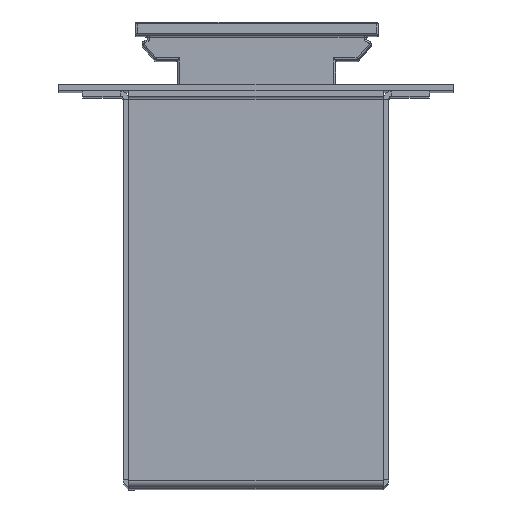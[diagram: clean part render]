
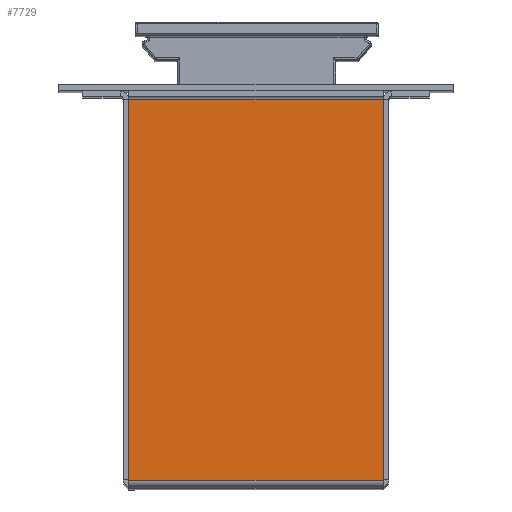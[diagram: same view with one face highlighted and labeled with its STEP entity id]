
A CAD part, top view. The second image highlights one B-rep face of the part: STEP entity #7729.
In plain terms, the highlighted planar face has unit normal (0, 0, 1).
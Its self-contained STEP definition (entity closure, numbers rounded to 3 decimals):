
#500 = CARTESIAN_POINT ( 'NONE',  ( 0., -0.4, 0. ) ) ;
#1210 = CARTESIAN_POINT ( 'NONE',  ( 0., -0.4, 0. ) ) ;
#1249 = DIRECTION ( 'NONE',  ( -1., 0., 0. ) ) ;
#1330 = EDGE_CURVE ( 'NONE', #1530, #2971, #10136, .T. ) ;
#1530 = VERTEX_POINT ( 'NONE', #6980 ) ;
#1647 = FACE_OUTER_BOUND ( 'NONE', #2523, .T. ) ;
#1860 = VECTOR ( 'NONE', #3801, 1000. ) ;
#1870 = LINE ( 'NONE', #4142, #1860 ) ;
#2093 = ORIENTED_EDGE ( 'NONE', *, *, #3275, .T. ) ;
#2257 = CARTESIAN_POINT ( 'NONE',  ( 39., -58.7, 0. ) ) ;
#2332 = ORIENTED_EDGE ( 'NONE', *, *, #6847, .F. ) ;
#2393 = EDGE_CURVE ( 'NONE', #7942, #1530, #1870, .T. ) ;
#2523 = EDGE_LOOP ( 'NONE', ( #2739, #2596, #2332, #2093 ) ) ;
#2596 = ORIENTED_EDGE ( 'NONE', *, *, #2393, .F. ) ;
#2739 = ORIENTED_EDGE ( 'NONE', *, *, #1330, .F. ) ;
#2971 = VERTEX_POINT ( 'NONE', #500 ) ;
#3275 = EDGE_CURVE ( 'NONE', #6027, #2971, #9661, .T. ) ;
#3526 = CARTESIAN_POINT ( 'NONE',  ( 39., -59.2, 0. ) ) ;
#3540 = DIRECTION ( 'NONE',  ( 0., -1., 0. ) ) ;
#3801 = DIRECTION ( 'NONE',  ( -1., 0., 0. ) ) ;
#4142 = CARTESIAN_POINT ( 'NONE',  ( 39., -58.7, 0. ) ) ;
#5901 = DIRECTION ( 'NONE',  ( 0., -1., 0. ) ) ;
#6026 = DIRECTION ( 'NONE',  ( 0., 0., 1. ) ) ;
#6027 = VERTEX_POINT ( 'NONE', #8836 ) ;
#6058 = CARTESIAN_POINT ( 'NONE',  ( 0., 0., 0. ) ) ;
#6079 = PLANE ( 'NONE',  #7515 ) ;
#6847 = EDGE_CURVE ( 'NONE', #6027, #7942, #10489, .T. ) ;
#6980 = CARTESIAN_POINT ( 'NONE',  ( 0., -58.7, 0. ) ) ;
#7515 = AXIS2_PLACEMENT_3D ( 'NONE', #6058, #6026, #5901 ) ;
#7729 = ADVANCED_FACE ( 'NONE', ( #1647 ), #6079, .T. ) ;
#7942 = VERTEX_POINT ( 'NONE', #2257 ) ;
#8836 = CARTESIAN_POINT ( 'NONE',  ( 39., -0.4, 0. ) ) ;
#9243 = DIRECTION ( 'NONE',  ( 0., 1., 0. ) ) ;
#9247 = CARTESIAN_POINT ( 'NONE',  ( 0., 0., 0. ) ) ;
#9645 = VECTOR ( 'NONE', #1249, 1000. ) ;
#9661 = LINE ( 'NONE', #1210, #9645 ) ;
#9808 = VECTOR ( 'NONE', #9243, 1000. ) ;
#10136 = LINE ( 'NONE', #9247, #9808 ) ;
#10479 = VECTOR ( 'NONE', #3540, 1000. ) ;
#10489 = LINE ( 'NONE', #3526, #10479 ) ;
